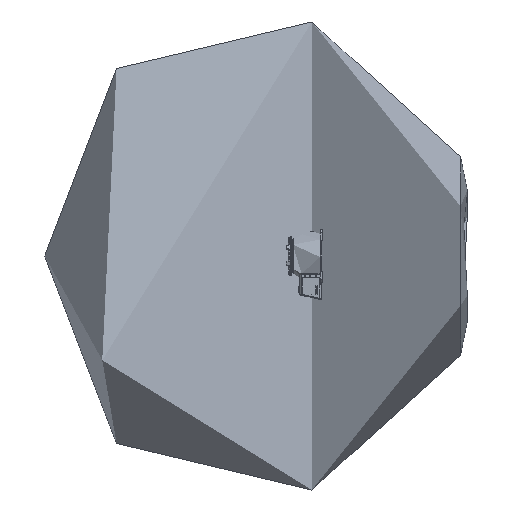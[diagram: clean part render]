
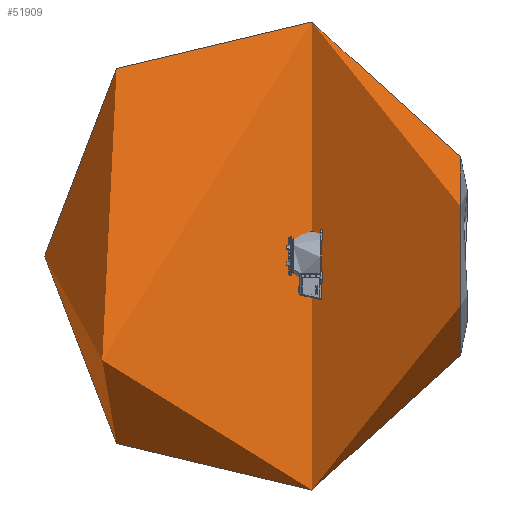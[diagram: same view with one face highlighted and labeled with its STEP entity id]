
A CAD part, left-side view. The second image highlights one B-rep face of the part: STEP entity #51909.
In plain terms, the highlighted free-form (B-spline) face has degree [3, 3] with [4, 4] control points.
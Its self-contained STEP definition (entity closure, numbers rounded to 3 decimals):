
#3390 = EDGE_CURVE ( 'NONE', #116989, #37323, #26980, .T. ) ;
#18864 = CARTESIAN_POINT ( 'NONE',  ( 3528.056, -650.435, 0. ) ) ;
#26980 = CIRCLE ( 'NONE', #247888, 1681.067 ) ;
#31469 = ORIENTED_EDGE ( 'NONE', *, *, #3390, .T. ) ;
#37323 = VERTEX_POINT ( 'NONE', #214896 ) ;
#47730 = CARTESIAN_POINT ( 'NONE',  ( -2497.653, 1992.368, 0. ) ) ;
#50187 = CARTESIAN_POINT ( 'NONE',  ( -574.959, -1579.686, 0. ) ) ;
#51909 = ADVANCED_FACE ( 'NONE', ( #369349 ), #134199, .T. ) ;
#81477 = CARTESIAN_POINT ( 'NONE',  ( 2897.653, 1992.368, 5395.306 ) ) ;
#88425 = DIRECTION ( 'NONE',  ( 0., 0., 1. ) ) ;
#107808 = CARTESIAN_POINT ( 'NONE',  ( 200., 1669.127, 0. ) ) ;
#108435 = AXIS2_PLACEMENT_3D ( 'NONE', #340022, #337583, #220861 ) ;
#110275 = CARTESIAN_POINT ( 'NONE',  ( 200., 1669.127, 0. ) ) ;
#116989 = VERTEX_POINT ( 'NONE', #262975 ) ;
#126089 = EDGE_CURVE ( 'NONE', #116989, #208384, #152498, .T. ) ;
#126552 = CARTESIAN_POINT ( 'NONE',  ( 200., -1579.686, 0. ) ) ;
#134199 =( BOUNDED_SURFACE ( )  B_SPLINE_SURFACE ( 3, 3, ( 
 ( #191919, #166789, #107808, #110275 ),
 ( #47730, #363877, #81477, #311088 ),
 ( #308607, #221989, #336242, #18864 ),
 ( #50187, #306166, #250803, #280944 ) ),
 .UNSPECIFIED., .F., .F., .T. ) 
 B_SPLINE_SURFACE_WITH_KNOTS ( ( 4, 4 ),
 ( 4, 4 ),
 ( 0., 1. ),
 ( 0., 1. ),
 .UNSPECIFIED. ) 
 GEOMETRIC_REPRESENTATION_ITEM ( )  RATIONAL_B_SPLINE_SURFACE ( (
 ( 1., 0.333, 0.333, 1.),
 ( 0.41, 0.137, 0.137, 0.41),
 ( 0.41, 0.137, 0.137, 0.41),
 ( 1., 0.333, 0.333, 1.) ) ) 
 REPRESENTATION_ITEM ( '' )  SURFACE ( )  );
#148609 = DIRECTION ( 'NONE',  ( -1., 0., 0. ) ) ;
#152498 = CIRCLE ( 'NONE', #108435, 1681.067 ) ;
#166243 = CARTESIAN_POINT ( 'NONE',  ( 974.959, -1579.686, 0. ) ) ;
#166561 = EDGE_LOOP ( 'NONE', ( #299600, #31469, #258423 ) ) ;
#166789 = CARTESIAN_POINT ( 'NONE',  ( 200., 1669.127, 0. ) ) ;
#180560 = DIRECTION ( 'NONE',  ( -1., 0., 0. ) ) ;
#191919 = CARTESIAN_POINT ( 'NONE',  ( 200., 1669.127, 0. ) ) ;
#208384 = VERTEX_POINT ( 'NONE', #166243 ) ;
#214896 = CARTESIAN_POINT ( 'NONE',  ( -574.959, -1579.686, 0. ) ) ;
#220861 = DIRECTION ( 'NONE',  ( 1., 0., 0. ) ) ;
#221989 = CARTESIAN_POINT ( 'NONE',  ( -3128.056, -650.435, 6656.112 ) ) ;
#235104 = CARTESIAN_POINT ( 'NONE',  ( 0., 0., 0. ) ) ;
#236014 = AXIS2_PLACEMENT_3D ( 'NONE', #126552, #272018, #180560 ) ;
#247888 = AXIS2_PLACEMENT_3D ( 'NONE', #235104, #88425, #148609 ) ;
#250803 = CARTESIAN_POINT ( 'NONE',  ( 974.959, -1579.686, 1549.917 ) ) ;
#258423 = ORIENTED_EDGE ( 'NONE', *, *, #326760, .T. ) ;
#262975 = CARTESIAN_POINT ( 'NONE',  ( 200., 1669.127, 0. ) ) ;
#272018 = DIRECTION ( 'NONE',  ( 0., 1., 0. ) ) ;
#280944 = CARTESIAN_POINT ( 'NONE',  ( 974.959, -1579.686, 0. ) ) ;
#299600 = ORIENTED_EDGE ( 'NONE', *, *, #126089, .F. ) ;
#306166 = CARTESIAN_POINT ( 'NONE',  ( -574.959, -1579.686, 1549.917 ) ) ;
#308607 = CARTESIAN_POINT ( 'NONE',  ( -3128.056, -650.435, 0. ) ) ;
#311088 = CARTESIAN_POINT ( 'NONE',  ( 2897.653, 1992.368, 0. ) ) ;
#320850 = CIRCLE ( 'NONE', #236014, 774.959 ) ;
#326760 = EDGE_CURVE ( 'NONE', #37323, #208384, #320850, .T. ) ;
#336242 = CARTESIAN_POINT ( 'NONE',  ( 3528.056, -650.435, 6656.112 ) ) ;
#337583 = DIRECTION ( 'NONE',  ( 0., 0., -1. ) ) ;
#340022 = CARTESIAN_POINT ( 'NONE',  ( 400., 0., 0. ) ) ;
#363877 = CARTESIAN_POINT ( 'NONE',  ( -2497.653, 1992.368, 5395.306 ) ) ;
#369349 = FACE_OUTER_BOUND ( 'NONE', #166561, .T. ) ;
